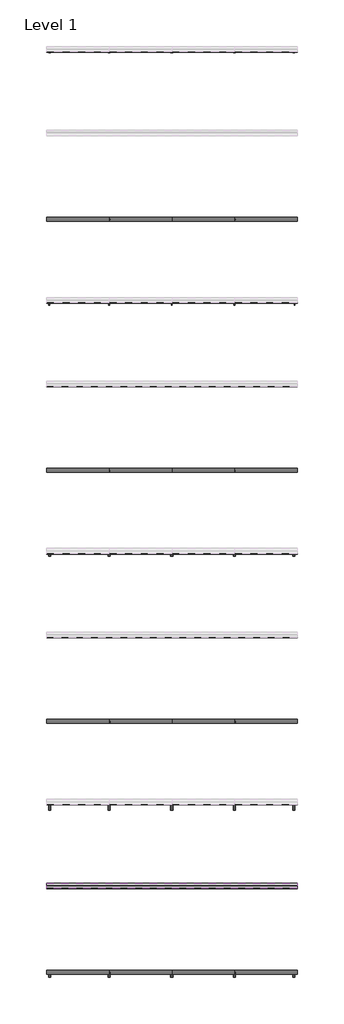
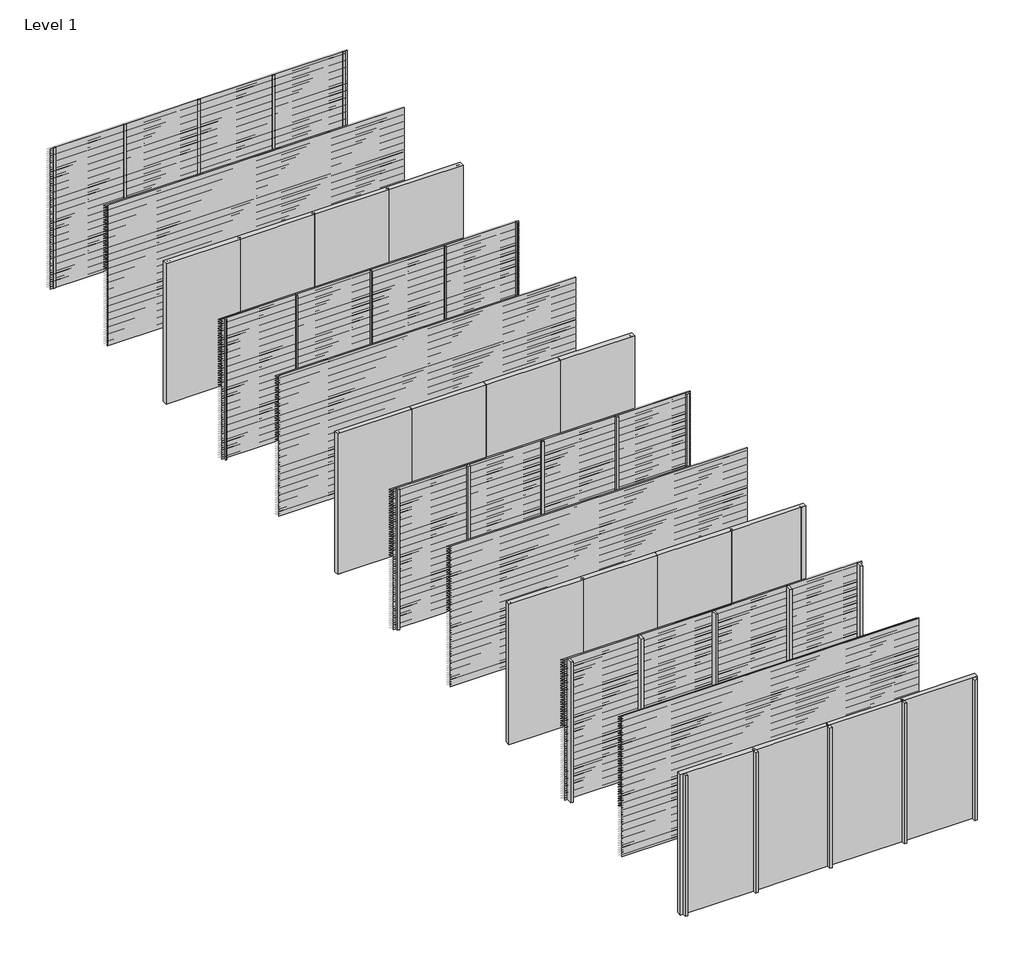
# One storey, part 1 of 13: 40 members, 39 proxies, 36 plates.
"""IFC4 building model written with IfcOpenShell, lengths in millimetres."""

from ifc_helpers import new_model, si_unit, frame, origin, origin_with_axes, place, context, project, spatial, polyline, outline, extrude, transform, mapped, element, save
from components import rectangular_mullion_bbbcbd30, rectangular_mullion_f8d4a220, rectangular_mullion_81aaf6fe, rectangular_mullion_6e08dc26, rectangular_mullion_75c52e10, rectangular_mullion_40295cf1, rectangular_mullion_7f158cb3, rectangular_mullion_66519e13, rectangular_mullion_5829b51c, rectangular_mullion_3b5b8a15, rectangular_mullion_81543344, rectangular_mullion_041a21c4, empty_system_panel_empty_ae16e1e1, empty_system_panel_empty_4cf993bc

model = new_model("IFC4")

# Units and contexts
model_context = context("Model", 3, world=origin())
ifc_project = project(units=[si_unit("LENGTHUNIT", "METRE", prefix="MILLI")], contexts=[model_context])

# Site, building, storey
site = spatial("IfcSite", under=ifc_project)
building = spatial("IfcBuilding", under=site)
storey = spatial("IfcBuildingStorey", under=building, Name="Level 1", Elevation=0.0)

# Proxies
placement = place(None, origin())
element("IfcBuildingElementProxy", 1, Name="Wall Sweeps", at=placement, inside=storey, context=model_context, shape_type="SweptSolid", body=[
    extrude(outline(polyline([(-19995.0, 3000.0), (-19995.0, 2998.0), (-19868.0, 2919.0), (-19868.0, 2913.0), (-19997.0, 2993.2440945), (-19997.0, 3000.0), (-19995.0, 3000.0)])), frame((0.0, 0.0, 0.0), z_axis=(1.0, 0.0, 0.0), x_axis=(0.0, 1.0, 0.0)), (0.0, 0.0, 1.0), 6000.0),
])
element("IfcBuildingElementProxy", 2, Name="Wall Sweeps", at=placement, inside=storey, context=model_context, shape_type="SweptSolid", body=[
    extrude(outline(polyline([(-19995.0, 2950.0), (-19995.0, 2948.0), (-19868.0, 2869.0), (-19868.0, 2863.0), (-19997.0, 2943.2440945), (-19997.0, 2950.0), (-19995.0, 2950.0)])), frame((0.0, 0.0, 0.0), z_axis=(1.0, 0.0, 0.0), x_axis=(0.0, 1.0, 0.0)), (0.0, 0.0, 1.0), 6000.0),
])
element("IfcBuildingElementProxy", 3, Name="Wall Sweeps", at=placement, inside=storey, context=model_context, shape_type="SweptSolid", body=[
    extrude(outline(polyline([(-19995.0, 2900.0), (-19995.0, 2898.0), (-19868.0, 2819.0), (-19868.0, 2813.0), (-19997.0, 2893.2440945), (-19997.0, 2900.0), (-19995.0, 2900.0)])), frame((0.0, 0.0, 0.0), z_axis=(1.0, 0.0, 0.0), x_axis=(0.0, 1.0, 0.0)), (0.0, 0.0, 1.0), 6000.0),
])
element("IfcBuildingElementProxy", 4, Name="Wall Sweeps", at=placement, inside=storey, context=model_context, shape_type="SweptSolid", body=[
    extrude(outline(polyline([(-19995.0, 2850.0), (-19995.0, 2848.0), (-19868.0, 2769.0), (-19868.0, 2763.0), (-19997.0, 2843.2440945), (-19997.0, 2850.0), (-19995.0, 2850.0)])), frame((0.0, 0.0, 0.0), z_axis=(1.0, 0.0, 0.0), x_axis=(0.0, 1.0, 0.0)), (0.0, 0.0, 1.0), 6000.0),
])
element("IfcBuildingElementProxy", 5, Name="Wall Sweeps", at=placement, inside=storey, context=model_context, shape_type="SweptSolid", body=[
    extrude(outline(polyline([(-19995.0, 2800.0), (-19995.0, 2798.0), (-19868.0, 2719.0), (-19868.0, 2713.0), (-19997.0, 2793.2440945), (-19997.0, 2800.0), (-19995.0, 2800.0)])), frame((0.0, 0.0, 0.0), z_axis=(1.0, 0.0, 0.0), x_axis=(0.0, 1.0, 0.0)), (0.0, 0.0, 1.0), 6000.0),
])
element("IfcBuildingElementProxy", 6, Name="Wall Sweeps", at=placement, inside=storey, context=model_context, shape_type="SweptSolid", body=[
    extrude(outline(polyline([(-19995.0, 2750.0), (-19995.0, 2748.0), (-19868.0, 2669.0), (-19868.0, 2663.0), (-19997.0, 2743.2440945), (-19997.0, 2750.0), (-19995.0, 2750.0)])), frame((0.0, 0.0, 0.0), z_axis=(1.0, 0.0, 0.0), x_axis=(0.0, 1.0, 0.0)), (0.0, 0.0, 1.0), 6000.0),
])
element("IfcBuildingElementProxy", 7, Name="Wall Sweeps", at=placement, inside=storey, context=model_context, shape_type="SweptSolid", body=[
    extrude(outline(polyline([(-19995.0, 2700.0), (-19995.0, 2698.0), (-19868.0, 2619.0), (-19868.0, 2613.0), (-19997.0, 2693.2440945), (-19997.0, 2700.0), (-19995.0, 2700.0)])), frame((0.0, 0.0, 0.0), z_axis=(1.0, 0.0, 0.0), x_axis=(0.0, 1.0, 0.0)), (0.0, 0.0, 1.0), 6000.0),
])
element("IfcBuildingElementProxy", 8, Name="Wall Sweeps", at=placement, inside=storey, context=model_context, shape_type="SweptSolid", body=[
    extrude(outline(polyline([(-19995.0, 2650.0), (-19995.0, 2648.0), (-19868.0, 2569.0), (-19868.0, 2563.0), (-19997.0, 2643.2440945), (-19997.0, 2650.0), (-19995.0, 2650.0)])), frame((0.0, 0.0, 0.0), z_axis=(1.0, 0.0, 0.0), x_axis=(0.0, 1.0, 0.0)), (0.0, 0.0, 1.0), 6000.0),
])
element("IfcBuildingElementProxy", 9, Name="Wall Sweeps", at=placement, inside=storey, context=model_context, shape_type="SweptSolid", body=[
    extrude(outline(polyline([(-19995.0, 2600.0), (-19995.0, 2598.0), (-19868.0, 2519.0), (-19868.0, 2513.0), (-19997.0, 2593.2440945), (-19997.0, 2600.0), (-19995.0, 2600.0)])), frame((0.0, 0.0, 0.0), z_axis=(1.0, 0.0, 0.0), x_axis=(0.0, 1.0, 0.0)), (0.0, 0.0, 1.0), 6000.0),
])
element("IfcBuildingElementProxy", 10, Name="Wall Sweeps", at=placement, inside=storey, context=model_context, shape_type="SweptSolid", body=[
    extrude(outline(polyline([(-19995.0, 2550.0), (-19995.0, 2548.0), (-19868.0, 2469.0), (-19868.0, 2463.0), (-19997.0, 2543.2440945), (-19997.0, 2550.0), (-19995.0, 2550.0)])), frame((0.0, 0.0, 0.0), z_axis=(1.0, 0.0, 0.0), x_axis=(0.0, 1.0, 0.0)), (0.0, 0.0, 1.0), 6000.0),
])
element("IfcBuildingElementProxy", 11, Name="Wall Sweeps", at=placement, inside=storey, context=model_context, shape_type="SweptSolid", body=[
    extrude(outline(polyline([(-19995.0, 2500.0), (-19995.0, 2498.0), (-19868.0, 2419.0), (-19868.0, 2413.0), (-19997.0, 2493.2440945), (-19997.0, 2500.0), (-19995.0, 2500.0)])), frame((0.0, 0.0, 0.0), z_axis=(1.0, 0.0, 0.0), x_axis=(0.0, 1.0, 0.0)), (0.0, 0.0, 1.0), 6000.0),
])
element("IfcBuildingElementProxy", 12, Name="Wall Sweeps", at=placement, inside=storey, context=model_context, shape_type="SweptSolid", body=[
    extrude(outline(polyline([(-19995.0, 2450.0), (-19995.0, 2448.0), (-19868.0, 2369.0), (-19868.0, 2363.0), (-19997.0, 2443.2440945), (-19997.0, 2450.0), (-19995.0, 2450.0)])), frame((0.0, 0.0, 0.0), z_axis=(1.0, 0.0, 0.0), x_axis=(0.0, 1.0, 0.0)), (0.0, 0.0, 1.0), 6000.0),
])
element("IfcBuildingElementProxy", 13, Name="Wall Sweeps", at=placement, inside=storey, context=model_context, shape_type="SweptSolid", body=[
    extrude(outline(polyline([(-19995.0, 2400.0), (-19995.0, 2398.0), (-19868.0, 2319.0), (-19868.0, 2313.0), (-19997.0, 2393.2440945), (-19997.0, 2400.0), (-19995.0, 2400.0)])), frame((0.0, 0.0, 0.0), z_axis=(1.0, 0.0, 0.0), x_axis=(0.0, 1.0, 0.0)), (0.0, 0.0, 1.0), 6000.0),
])
element("IfcBuildingElementProxy", 14, Name="Wall Sweeps", at=placement, inside=storey, context=model_context, shape_type="SweptSolid", body=[
    extrude(outline(polyline([(-19995.0, 2350.0), (-19995.0, 2348.0), (-19868.0, 2269.0), (-19868.0, 2263.0), (-19997.0, 2343.2440945), (-19997.0, 2350.0), (-19995.0, 2350.0)])), frame((0.0, 0.0, 0.0), z_axis=(1.0, 0.0, 0.0), x_axis=(0.0, 1.0, 0.0)), (0.0, 0.0, 1.0), 6000.0),
])
element("IfcBuildingElementProxy", 15, Name="Wall Sweeps", at=placement, inside=storey, context=model_context, shape_type="SweptSolid", body=[
    extrude(outline(polyline([(-19995.0, 2300.0), (-19995.0, 2298.0), (-19868.0, 2219.0), (-19868.0, 2213.0), (-19997.0, 2293.2440945), (-19997.0, 2300.0), (-19995.0, 2300.0)])), frame((0.0, 0.0, 0.0), z_axis=(1.0, 0.0, 0.0), x_axis=(0.0, 1.0, 0.0)), (0.0, 0.0, 1.0), 6000.0),
])
element("IfcBuildingElementProxy", 16, Name="Wall Sweeps", at=placement, inside=storey, context=model_context, shape_type="SweptSolid", body=[
    extrude(outline(polyline([(-19995.0, 2250.0), (-19995.0, 2248.0), (-19868.0, 2169.0), (-19868.0, 2163.0), (-19997.0, 2243.2440945), (-19997.0, 2250.0), (-19995.0, 2250.0)])), frame((0.0, 0.0, 0.0), z_axis=(1.0, 0.0, 0.0), x_axis=(0.0, 1.0, 0.0)), (0.0, 0.0, 1.0), 6000.0),
])
element("IfcBuildingElementProxy", 17, Name="Wall Sweeps", at=placement, inside=storey, context=model_context, shape_type="SweptSolid", body=[
    extrude(outline(polyline([(-19995.0, 2200.0), (-19995.0, 2198.0), (-19868.0, 2119.0), (-19868.0, 2113.0), (-19997.0, 2193.2440945), (-19997.0, 2200.0), (-19995.0, 2200.0)])), frame((0.0, 0.0, 0.0), z_axis=(1.0, 0.0, 0.0), x_axis=(0.0, 1.0, 0.0)), (0.0, 0.0, 1.0), 6000.0),
])
element("IfcBuildingElementProxy", 18, Name="Wall Sweeps", at=placement, inside=storey, context=model_context, shape_type="SweptSolid", body=[
    extrude(outline(polyline([(-19995.0, 2150.0), (-19995.0, 2148.0), (-19868.0, 2069.0), (-19868.0, 2063.0), (-19997.0, 2143.2440945), (-19997.0, 2150.0), (-19995.0, 2150.0)])), frame((0.0, 0.0, 0.0), z_axis=(1.0, 0.0, 0.0), x_axis=(0.0, 1.0, 0.0)), (0.0, 0.0, 1.0), 6000.0),
])
element("IfcBuildingElementProxy", 19, Name="Wall Sweeps", at=placement, inside=storey, context=model_context, shape_type="SweptSolid", body=[
    extrude(outline(polyline([(-19995.0, 2100.0), (-19995.0, 2098.0), (-19868.0, 2019.0), (-19868.0, 2013.0), (-19997.0, 2093.2440945), (-19997.0, 2100.0), (-19995.0, 2100.0)])), frame((0.0, 0.0, 0.0), z_axis=(1.0, 0.0, 0.0), x_axis=(0.0, 1.0, 0.0)), (0.0, 0.0, 1.0), 6000.0),
])
element("IfcBuildingElementProxy", 20, Name="Wall Sweeps", at=placement, inside=storey, context=model_context, shape_type="SweptSolid", body=[
    extrude(outline(polyline([(-19995.0, 2050.0), (-19995.0, 2048.0), (-19868.0, 1969.0), (-19868.0, 1963.0), (-19997.0, 2043.2440945), (-19997.0, 2050.0), (-19995.0, 2050.0)])), frame((0.0, 0.0, 0.0), z_axis=(1.0, 0.0, 0.0), x_axis=(0.0, 1.0, 0.0)), (0.0, 0.0, 1.0), 6000.0),
])
element("IfcBuildingElementProxy", 21, Name="Wall Sweeps", at=placement, inside=storey, context=model_context, shape_type="SweptSolid", body=[
    extrude(outline(polyline([(-19995.0, 2000.0), (-19995.0, 1998.0), (-19868.0, 1919.0), (-19868.0, 1913.0), (-19997.0, 1993.2440945), (-19997.0, 2000.0), (-19995.0, 2000.0)])), frame((0.0, 0.0, 0.0), z_axis=(1.0, 0.0, 0.0), x_axis=(0.0, 1.0, 0.0)), (0.0, 0.0, 1.0), 6000.0),
])
element("IfcBuildingElementProxy", 22, Name="Wall Sweeps", at=placement, inside=storey, context=model_context, shape_type="SweptSolid", body=[
    extrude(outline(polyline([(-19995.0, 1950.0), (-19995.0, 1948.0), (-19868.0, 1869.0), (-19868.0, 1863.0), (-19997.0, 1943.2440945), (-19997.0, 1950.0), (-19995.0, 1950.0)])), frame((0.0, 0.0, 0.0), z_axis=(1.0, 0.0, 0.0), x_axis=(0.0, 1.0, 0.0)), (0.0, 0.0, 1.0), 6000.0),
])
element("IfcBuildingElementProxy", 23, Name="Wall Sweeps", at=placement, inside=storey, context=model_context, shape_type="SweptSolid", body=[
    extrude(outline(polyline([(-19995.0, 1900.0), (-19995.0, 1898.0), (-19868.0, 1819.0), (-19868.0, 1813.0), (-19997.0, 1893.2440945), (-19997.0, 1900.0), (-19995.0, 1900.0)])), frame((0.0, 0.0, 0.0), z_axis=(1.0, 0.0, 0.0), x_axis=(0.0, 1.0, 0.0)), (0.0, 0.0, 1.0), 6000.0),
])
element("IfcBuildingElementProxy", 24, Name="Wall Sweeps", at=placement, inside=storey, context=model_context, shape_type="SweptSolid", body=[
    extrude(outline(polyline([(-19995.0, 1850.0), (-19995.0, 1848.0), (-19868.0, 1769.0), (-19868.0, 1763.0), (-19997.0, 1843.2440945), (-19997.0, 1850.0), (-19995.0, 1850.0)])), frame((0.0, 0.0, 0.0), z_axis=(1.0, 0.0, 0.0), x_axis=(0.0, 1.0, 0.0)), (0.0, 0.0, 1.0), 6000.0),
])
element("IfcBuildingElementProxy", 25, Name="Wall Sweeps", at=placement, inside=storey, context=model_context, shape_type="SweptSolid", body=[
    extrude(outline(polyline([(-19995.0, 1800.0), (-19995.0, 1798.0), (-19868.0, 1719.0), (-19868.0, 1713.0), (-19997.0, 1793.2440945), (-19997.0, 1800.0), (-19995.0, 1800.0)])), frame((0.0, 0.0, 0.0), z_axis=(1.0, 0.0, 0.0), x_axis=(0.0, 1.0, 0.0)), (0.0, 0.0, 1.0), 6000.0),
])
element("IfcBuildingElementProxy", 26, Name="Wall Sweeps", at=placement, inside=storey, context=model_context, shape_type="SweptSolid", body=[
    extrude(outline(polyline([(-19995.0, 1750.0), (-19995.0, 1748.0), (-19868.0, 1669.0), (-19868.0, 1663.0), (-19997.0, 1743.2440945), (-19997.0, 1750.0), (-19995.0, 1750.0)])), frame((0.0, 0.0, 0.0), z_axis=(1.0, 0.0, 0.0), x_axis=(0.0, 1.0, 0.0)), (0.0, 0.0, 1.0), 6000.0),
])
element("IfcBuildingElementProxy", 27, Name="Wall Sweeps", at=placement, inside=storey, context=model_context, shape_type="SweptSolid", body=[
    extrude(outline(polyline([(-19995.0, 1700.0), (-19995.0, 1698.0), (-19868.0, 1619.0), (-19868.0, 1613.0), (-19997.0, 1693.2440945), (-19997.0, 1700.0), (-19995.0, 1700.0)])), frame((0.0, 0.0, 0.0), z_axis=(1.0, 0.0, 0.0), x_axis=(0.0, 1.0, 0.0)), (0.0, 0.0, 1.0), 6000.0),
])
element("IfcBuildingElementProxy", 28, Name="Wall Sweeps", at=placement, inside=storey, context=model_context, shape_type="SweptSolid", body=[
    extrude(outline(polyline([(-19995.0, 1650.0), (-19995.0, 1648.0), (-19868.0, 1569.0), (-19868.0, 1563.0), (-19997.0, 1643.2440945), (-19997.0, 1650.0), (-19995.0, 1650.0)])), frame((0.0, 0.0, 0.0), z_axis=(1.0, 0.0, 0.0), x_axis=(0.0, 1.0, 0.0)), (0.0, 0.0, 1.0), 6000.0),
])
element("IfcBuildingElementProxy", 29, Name="Wall Sweeps", at=placement, inside=storey, context=model_context, shape_type="SweptSolid", body=[
    extrude(outline(polyline([(-19995.0, 1600.0), (-19995.0, 1598.0), (-19868.0, 1519.0), (-19868.0, 1513.0), (-19997.0, 1593.2440945), (-19997.0, 1600.0), (-19995.0, 1600.0)])), frame((0.0, 0.0, 0.0), z_axis=(1.0, 0.0, 0.0), x_axis=(0.0, 1.0, 0.0)), (0.0, 0.0, 1.0), 6000.0),
])
element("IfcBuildingElementProxy", 30, Name="Wall Sweeps", at=placement, inside=storey, context=model_context, shape_type="SweptSolid", body=[
    extrude(outline(polyline([(-19995.0, 1550.0), (-19995.0, 1548.0), (-19868.0, 1469.0), (-19868.0, 1463.0), (-19997.0, 1543.2440945), (-19997.0, 1550.0), (-19995.0, 1550.0)])), frame((0.0, 0.0, 0.0), z_axis=(1.0, 0.0, 0.0), x_axis=(0.0, 1.0, 0.0)), (0.0, 0.0, 1.0), 6000.0),
])
element("IfcBuildingElementProxy", 31, Name="Wall Sweeps", at=placement, inside=storey, context=model_context, shape_type="SweptSolid", body=[
    extrude(outline(polyline([(-19995.0, 1500.0), (-19995.0, 1498.0), (-19868.0, 1419.0), (-19868.0, 1413.0), (-19997.0, 1493.2440945), (-19997.0, 1500.0), (-19995.0, 1500.0)])), frame((0.0, 0.0, 0.0), z_axis=(1.0, 0.0, 0.0), x_axis=(0.0, 1.0, 0.0)), (0.0, 0.0, 1.0), 6000.0),
])
element("IfcBuildingElementProxy", 32, Name="Wall Sweeps", at=placement, inside=storey, context=model_context, shape_type="SweptSolid", body=[
    extrude(outline(polyline([(-19995.0, 1450.0), (-19995.0, 1448.0), (-19868.0, 1369.0), (-19868.0, 1363.0), (-19997.0, 1443.2440945), (-19997.0, 1450.0), (-19995.0, 1450.0)])), frame((0.0, 0.0, 0.0), z_axis=(1.0, 0.0, 0.0), x_axis=(0.0, 1.0, 0.0)), (0.0, 0.0, 1.0), 6000.0),
])
element("IfcBuildingElementProxy", 33, Name="Wall Sweeps", at=placement, inside=storey, context=model_context, shape_type="SweptSolid", body=[
    extrude(outline(polyline([(-19995.0, 1400.0), (-19995.0, 1398.0), (-19868.0, 1319.0), (-19868.0, 1313.0), (-19997.0, 1393.2440945), (-19997.0, 1400.0), (-19995.0, 1400.0)])), frame((0.0, 0.0, 0.0), z_axis=(1.0, 0.0, 0.0), x_axis=(0.0, 1.0, 0.0)), (0.0, 0.0, 1.0), 6000.0),
])
element("IfcBuildingElementProxy", 34, Name="Wall Sweeps", at=placement, inside=storey, context=model_context, shape_type="SweptSolid", body=[
    extrude(outline(polyline([(-19995.0, 1350.0), (-19995.0, 1348.0), (-19868.0, 1269.0), (-19868.0, 1263.0), (-19997.0, 1343.2440945), (-19997.0, 1350.0), (-19995.0, 1350.0)])), frame((0.0, 0.0, 0.0), z_axis=(1.0, 0.0, 0.0), x_axis=(0.0, 1.0, 0.0)), (0.0, 0.0, 1.0), 6000.0),
])
element("IfcBuildingElementProxy", 35, Name="Wall Sweeps", at=placement, inside=storey, context=model_context, shape_type="SweptSolid", body=[
    extrude(outline(polyline([(-19995.0, 1300.0), (-19995.0, 1298.0), (-19868.0, 1219.0), (-19868.0, 1213.0), (-19997.0, 1293.2440945), (-19997.0, 1300.0), (-19995.0, 1300.0)])), frame((0.0, 0.0, 0.0), z_axis=(1.0, 0.0, 0.0), x_axis=(0.0, 1.0, 0.0)), (0.0, 0.0, 1.0), 6000.0),
])
element("IfcBuildingElementProxy", 36, Name="Wall Sweeps", at=placement, inside=storey, context=model_context, shape_type="SweptSolid", body=[
    extrude(outline(polyline([(-19995.0, 1250.0), (-19995.0, 1248.0), (-19868.0, 1169.0), (-19868.0, 1163.0), (-19997.0, 1243.2440945), (-19997.0, 1250.0), (-19995.0, 1250.0)])), frame((0.0, 0.0, 0.0), z_axis=(1.0, 0.0, 0.0), x_axis=(0.0, 1.0, 0.0)), (0.0, 0.0, 1.0), 6000.0),
])
element("IfcBuildingElementProxy", 37, Name="Wall Sweeps", at=placement, inside=storey, context=model_context, shape_type="SweptSolid", body=[
    extrude(outline(polyline([(-19995.0, 1200.0), (-19995.0, 1198.0), (-19868.0, 1119.0), (-19868.0, 1113.0), (-19997.0, 1193.2440945), (-19997.0, 1200.0), (-19995.0, 1200.0)])), frame((0.0, 0.0, 0.0), z_axis=(1.0, 0.0, 0.0), x_axis=(0.0, 1.0, 0.0)), (0.0, 0.0, 1.0), 6000.0),
])
element("IfcBuildingElementProxy", 38, Name="Wall Sweeps", at=placement, inside=storey, context=model_context, shape_type="SweptSolid", body=[
    extrude(outline(polyline([(-19995.0, 1150.0), (-19995.0, 1148.0), (-19868.0, 1069.0), (-19868.0, 1063.0), (-19997.0, 1143.2440945), (-19997.0, 1150.0), (-19995.0, 1150.0)])), frame((0.0, 0.0, 0.0), z_axis=(1.0, 0.0, 0.0), x_axis=(0.0, 1.0, 0.0)), (0.0, 0.0, 1.0), 6000.0),
])
element("IfcBuildingElementProxy", 39, Name="Wall Sweeps", at=placement, inside=storey, context=model_context, shape_type="SweptSolid", body=[
    extrude(outline(polyline([(-19995.0, 1100.0), (-19995.0, 1098.0), (-19868.0, 1019.0), (-19868.0, 1013.0), (-19997.0, 1093.2440945), (-19997.0, 1100.0), (-19995.0, 1100.0)])), frame((0.0, 0.0, 0.0), z_axis=(1.0, 0.0, 0.0), x_axis=(0.0, 1.0, 0.0)), (0.0, 0.0, 1.0), 6000.0),
])

# Members
rectangular_mullion_shape = rectangular_mullion_bbbcbd30(model_context)
element("IfcMember", 40, ObjectType="Rectangular Mullion : RSen_21_CWM_support profile - 50x12 - left_gen_duco projects", at=placement, inside=storey, context=model_context, shape_type="MappedRepresentation", body=[
    mapped(rectangular_mullion_shape, transform((0.0, 0.0, 0.0), x_axis=(-1.0, 0.0, 0.0), y_axis=(0.0, 1.0, 0.0), z_axis=(0.0, 0.0, -1.0))),
])
element("IfcMember", 41, ObjectType="Rectangular Mullion : RSen_21_CWM_support profile - 50x12 - left_gen_duco projects", at=placement, inside=storey, context=model_context, shape_type="MappedRepresentation", body=[
    mapped(rectangular_mullion_shape, transform((0.0, -4000.0, 0.0), x_axis=(-1.0, 0.0, 0.0), y_axis=(0.0, 1.0, 0.0), z_axis=(0.0, 0.0, -1.0))),
])
rectangular_mullion_2_shape = rectangular_mullion_f8d4a220(model_context)
element("IfcMember", 42, ObjectType="Rectangular Mullion : RSen_21_CWM_support profile - 50x12 - right_gen_duco projects", at=placement, inside=storey, context=model_context, shape_type="MappedRepresentation", body=[
    mapped(rectangular_mullion_2_shape, transform((6000.0, 0.0, 3000.0), x_axis=(1.0, 0.0, 0.0), y_axis=(0.0, 1.0, 0.0), z_axis=(0.0, 0.0, 1.0))),
])
element("IfcMember", 43, ObjectType="Rectangular Mullion : RSen_21_CWM_support profile - 50x12 - right_gen_duco projects", at=placement, inside=storey, context=model_context, shape_type="MappedRepresentation", body=[
    mapped(rectangular_mullion_2_shape, transform((6000.0, -4000.0, 3000.0), x_axis=(1.0, 0.0, 0.0), y_axis=(0.0, 1.0, 0.0), z_axis=(0.0, 0.0, 1.0))),
])
rectangular_mullion_3_shape = rectangular_mullion_81aaf6fe(model_context)
element("IfcMember", 44, ObjectType="Rectangular Mullion : RSen_21_CWM_support profile - 21x50 Multi - left_gen_duco projects", at=placement, inside=storey, context=model_context, shape_type="MappedRepresentation", body=[
    mapped(rectangular_mullion_3_shape, transform((0.0, -6000.0, 0.0), x_axis=(-1.0, 0.0, 0.0), y_axis=(0.0, 1.0, 0.0), z_axis=(0.0, 0.0, -1.0))),
])
element("IfcMember", 45, ObjectType="Rectangular Mullion : RSen_21_CWM_support profile - 21x50 Multi - left_gen_duco projects", at=placement, inside=storey, context=model_context, shape_type="MappedRepresentation", body=[
    mapped(rectangular_mullion_3_shape, transform((0.0, -10000.0, 0.0), x_axis=(-1.0, 0.0, 0.0), y_axis=(0.0, 1.0, 0.0), z_axis=(0.0, 0.0, -1.0))),
])
rectangular_mullion_4_shape = rectangular_mullion_6e08dc26(model_context)
element("IfcMember", 46, ObjectType="Rectangular Mullion : RSen_21_CWM_support profile - 21x50 Multi - right_gen_duco projects", at=placement, inside=storey, context=model_context, shape_type="MappedRepresentation", body=[
    mapped(rectangular_mullion_4_shape, transform((6000.0, -6000.0, 3000.0), x_axis=(1.0, 0.0, 0.0), y_axis=(0.0, 1.0, 0.0), z_axis=(0.0, 0.0, 1.0))),
])
element("IfcMember", 47, ObjectType="Rectangular Mullion : RSen_21_CWM_support profile - 21x50 Multi - right_gen_duco projects", at=placement, inside=storey, context=model_context, shape_type="MappedRepresentation", body=[
    mapped(rectangular_mullion_4_shape, transform((6000.0, -10000.0, 3000.0), x_axis=(1.0, 0.0, 0.0), y_axis=(0.0, 1.0, 0.0), z_axis=(0.0, 0.0, 1.0))),
])
rectangular_mullion_5_shape = rectangular_mullion_75c52e10(model_context)
element("IfcMember", 48, ObjectType="Rectangular Mullion : RSen_21_CWM_support profile - 50x50 - left_gen_duco projects", at=placement, inside=storey, context=model_context, shape_type="MappedRepresentation", body=[
    mapped(rectangular_mullion_5_shape, transform((0.0, -12000.0, 0.0), x_axis=(-1.0, 0.0, 0.0), y_axis=(0.0, 1.0, 0.0), z_axis=(0.0, 0.0, -1.0))),
])
element("IfcMember", 49, ObjectType="Rectangular Mullion : RSen_21_CWM_support profile - 50x50 - left_gen_duco projects", at=placement, inside=storey, context=model_context, shape_type="MappedRepresentation", body=[
    mapped(rectangular_mullion_5_shape, transform((0.0, -16000.0, 0.0), x_axis=(-1.0, 0.0, 0.0), y_axis=(0.0, 1.0, 0.0), z_axis=(0.0, 0.0, -1.0))),
])
rectangular_mullion_6_shape = rectangular_mullion_40295cf1(model_context)
element("IfcMember", 50, ObjectType="Rectangular Mullion : RSen_21_CWM_support profile - 50x50 - right_gen_duco projects", at=placement, inside=storey, context=model_context, shape_type="MappedRepresentation", body=[
    mapped(rectangular_mullion_6_shape, transform((6000.0, -12000.0, 3000.0), x_axis=(1.0, 0.0, 0.0), y_axis=(0.0, 1.0, 0.0), z_axis=(0.0, 0.0, 1.0))),
])
element("IfcMember", 51, ObjectType="Rectangular Mullion : RSen_21_CWM_support profile - 50x50 - right_gen_duco projects", at=placement, inside=storey, context=model_context, shape_type="MappedRepresentation", body=[
    mapped(rectangular_mullion_6_shape, transform((6000.0, -16000.0, 3000.0), x_axis=(1.0, 0.0, 0.0), y_axis=(0.0, 1.0, 0.0), z_axis=(0.0, 0.0, 1.0))),
])
rectangular_mullion_7_shape = rectangular_mullion_7f158cb3(model_context)
element("IfcMember", 52, ObjectType="Rectangular Mullion : RSen_21_CWM_support profile - 50x12_gen_duco projects", at=placement, inside=storey, context=model_context, shape_type="MappedRepresentation", body=[
    mapped(rectangular_mullion_7_shape, transform((4500.0, 0.0, 0.0), x_axis=(-1.0, 0.0, 0.0), y_axis=(0.0, 1.0, 0.0), z_axis=(0.0, 0.0, -1.0))),
])
element("IfcMember", 53, ObjectType="Rectangular Mullion : RSen_21_CWM_support profile - 50x12_gen_duco projects", at=placement, inside=storey, context=model_context, shape_type="MappedRepresentation", body=[
    mapped(rectangular_mullion_7_shape, transform((3000.0, 0.0, 0.0), x_axis=(-1.0, 0.0, 0.0), y_axis=(0.0, 1.0, 0.0), z_axis=(0.0, 0.0, -1.0))),
])
element("IfcMember", 54, ObjectType="Rectangular Mullion : RSen_21_CWM_support profile - 50x12_gen_duco projects", at=placement, inside=storey, context=model_context, shape_type="MappedRepresentation", body=[
    mapped(rectangular_mullion_7_shape, transform((1500.0, 0.0, 0.0), x_axis=(-1.0, 0.0, 0.0), y_axis=(0.0, 1.0, 0.0), z_axis=(0.0, 0.0, -1.0))),
])
element("IfcMember", 55, ObjectType="Rectangular Mullion : RSen_21_CWM_support profile - 50x12_gen_duco projects", at=placement, inside=storey, context=model_context, shape_type="MappedRepresentation", body=[
    mapped(rectangular_mullion_7_shape, transform((4500.0, -4000.0, 0.0), x_axis=(-1.0, 0.0, 0.0), y_axis=(0.0, 1.0, 0.0), z_axis=(0.0, 0.0, -1.0))),
])
element("IfcMember", 56, ObjectType="Rectangular Mullion : RSen_21_CWM_support profile - 50x12_gen_duco projects", at=placement, inside=storey, context=model_context, shape_type="MappedRepresentation", body=[
    mapped(rectangular_mullion_7_shape, transform((3000.0, -4000.0, 0.0), x_axis=(-1.0, 0.0, 0.0), y_axis=(0.0, 1.0, 0.0), z_axis=(0.0, 0.0, -1.0))),
])
element("IfcMember", 57, ObjectType="Rectangular Mullion : RSen_21_CWM_support profile - 50x12_gen_duco projects", at=placement, inside=storey, context=model_context, shape_type="MappedRepresentation", body=[
    mapped(rectangular_mullion_7_shape, transform((1500.0, -4000.0, 0.0), x_axis=(-1.0, 0.0, 0.0), y_axis=(0.0, 1.0, 0.0), z_axis=(0.0, 0.0, -1.0))),
])
rectangular_mullion_8_shape = rectangular_mullion_66519e13(model_context)
element("IfcMember", 58, ObjectType="Rectangular Mullion : RSen_21_CWM_support profile - 21x50 Multi_gen_duco projects", at=placement, inside=storey, context=model_context, shape_type="MappedRepresentation", body=[
    mapped(rectangular_mullion_8_shape, transform((4500.0, -6000.0, 0.0), x_axis=(-1.0, 0.0, 0.0), y_axis=(0.0, 1.0, 0.0), z_axis=(0.0, 0.0, -1.0))),
])
element("IfcMember", 59, ObjectType="Rectangular Mullion : RSen_21_CWM_support profile - 21x50 Multi_gen_duco projects", at=placement, inside=storey, context=model_context, shape_type="MappedRepresentation", body=[
    mapped(rectangular_mullion_8_shape, transform((3000.0, -6000.0, 0.0), x_axis=(-1.0, 0.0, 0.0), y_axis=(0.0, 1.0, 0.0), z_axis=(0.0, 0.0, -1.0))),
])
element("IfcMember", 60, ObjectType="Rectangular Mullion : RSen_21_CWM_support profile - 21x50 Multi_gen_duco projects", at=placement, inside=storey, context=model_context, shape_type="MappedRepresentation", body=[
    mapped(rectangular_mullion_8_shape, transform((1500.0, -6000.0, 0.0), x_axis=(-1.0, 0.0, 0.0), y_axis=(0.0, 1.0, 0.0), z_axis=(0.0, 0.0, -1.0))),
])
element("IfcMember", 61, ObjectType="Rectangular Mullion : RSen_21_CWM_support profile - 21x50 Multi_gen_duco projects", at=placement, inside=storey, context=model_context, shape_type="MappedRepresentation", body=[
    mapped(rectangular_mullion_8_shape, transform((4500.0, -10000.0, 0.0), x_axis=(-1.0, 0.0, 0.0), y_axis=(0.0, 1.0, 0.0), z_axis=(0.0, 0.0, -1.0))),
])
element("IfcMember", 62, ObjectType="Rectangular Mullion : RSen_21_CWM_support profile - 21x50 Multi_gen_duco projects", at=placement, inside=storey, context=model_context, shape_type="MappedRepresentation", body=[
    mapped(rectangular_mullion_8_shape, transform((3000.0, -10000.0, 0.0), x_axis=(-1.0, 0.0, 0.0), y_axis=(0.0, 1.0, 0.0), z_axis=(0.0, 0.0, -1.0))),
])
element("IfcMember", 63, ObjectType="Rectangular Mullion : RSen_21_CWM_support profile - 21x50 Multi_gen_duco projects", at=placement, inside=storey, context=model_context, shape_type="MappedRepresentation", body=[
    mapped(rectangular_mullion_8_shape, transform((1500.0, -10000.0, 0.0), x_axis=(-1.0, 0.0, 0.0), y_axis=(0.0, 1.0, 0.0), z_axis=(0.0, 0.0, -1.0))),
])
rectangular_mullion_9_shape = rectangular_mullion_5829b51c(model_context)
element("IfcMember", 64, ObjectType="Rectangular Mullion : RSen_21_CWM_support profile - 50x50_gen_duco projects", at=placement, inside=storey, context=model_context, shape_type="MappedRepresentation", body=[
    mapped(rectangular_mullion_9_shape, transform((4500.0, -12000.0, 0.0), x_axis=(-1.0, 0.0, 0.0), y_axis=(0.0, 1.0, 0.0), z_axis=(0.0, 0.0, -1.0))),
])
element("IfcMember", 65, ObjectType="Rectangular Mullion : RSen_21_CWM_support profile - 50x50_gen_duco projects", at=placement, inside=storey, context=model_context, shape_type="MappedRepresentation", body=[
    mapped(rectangular_mullion_9_shape, transform((3000.0, -12000.0, 0.0), x_axis=(-1.0, 0.0, 0.0), y_axis=(0.0, 1.0, 0.0), z_axis=(0.0, 0.0, -1.0))),
])
element("IfcMember", 66, ObjectType="Rectangular Mullion : RSen_21_CWM_support profile - 50x50_gen_duco projects", at=placement, inside=storey, context=model_context, shape_type="MappedRepresentation", body=[
    mapped(rectangular_mullion_9_shape, transform((1500.0, -12000.0, 0.0), x_axis=(-1.0, 0.0, 0.0), y_axis=(0.0, 1.0, 0.0), z_axis=(0.0, 0.0, -1.0))),
])
element("IfcMember", 67, ObjectType="Rectangular Mullion : RSen_21_CWM_support profile - 50x50_gen_duco projects", at=placement, inside=storey, context=model_context, shape_type="MappedRepresentation", body=[
    mapped(rectangular_mullion_9_shape, transform((4500.0, -16000.0, 0.0), x_axis=(-1.0, 0.0, 0.0), y_axis=(0.0, 1.0, 0.0), z_axis=(0.0, 0.0, -1.0))),
])
element("IfcMember", 68, ObjectType="Rectangular Mullion : RSen_21_CWM_support profile - 50x50_gen_duco projects", at=placement, inside=storey, context=model_context, shape_type="MappedRepresentation", body=[
    mapped(rectangular_mullion_9_shape, transform((3000.0, -16000.0, 0.0), x_axis=(-1.0, 0.0, 0.0), y_axis=(0.0, 1.0, 0.0), z_axis=(0.0, 0.0, -1.0))),
])
element("IfcMember", 69, ObjectType="Rectangular Mullion : RSen_21_CWM_support profile - 50x50_gen_duco projects", at=placement, inside=storey, context=model_context, shape_type="MappedRepresentation", body=[
    mapped(rectangular_mullion_9_shape, transform((1500.0, -16000.0, 0.0), x_axis=(-1.0, 0.0, 0.0), y_axis=(0.0, 1.0, 0.0), z_axis=(0.0, 0.0, -1.0))),
])
rectangular_mullion_10_shape = rectangular_mullion_3b5b8a15(model_context)
element("IfcMember", 70, ObjectType="Rectangular Mullion : RSen_21_CWM_support profile - 50x125_gen_duco projects", at=placement, inside=storey, context=model_context, shape_type="MappedRepresentation", body=[
    mapped(rectangular_mullion_10_shape, transform((1500.0000002, -18000.0, 0.0), x_axis=(1.0, 0.0, 0.0), y_axis=(0.0, -1.0, 0.0), z_axis=(0.0, 0.0, -1.0))),
])
element("IfcMember", 71, ObjectType="Rectangular Mullion : RSen_21_CWM_support profile - 50x125_gen_duco projects", at=placement, inside=storey, context=model_context, shape_type="MappedRepresentation", body=[
    mapped(rectangular_mullion_10_shape, transform((3000.0, -18000.0, 0.0), x_axis=(1.0, 0.0, 0.0), y_axis=(0.0, -1.0, 0.0), z_axis=(0.0, 0.0, -1.0))),
])
element("IfcMember", 72, ObjectType="Rectangular Mullion : RSen_21_CWM_support profile - 50x125_gen_duco projects", at=placement, inside=storey, context=model_context, shape_type="MappedRepresentation", body=[
    mapped(rectangular_mullion_10_shape, transform((4499.9999998, -18000.0, 0.0), x_axis=(1.0, 0.0, 0.0), y_axis=(0.0, -1.0, 0.0), z_axis=(0.0, 0.0, -1.0))),
])
element("IfcMember", 73, ObjectType="Rectangular Mullion : RSen_21_CWM_support profile - 50x125_gen_duco projects", at=placement, inside=storey, context=model_context, shape_type="MappedRepresentation", body=[
    mapped(rectangular_mullion_10_shape, transform((1500.0000002, -22000.0, 0.0), x_axis=(1.0, 0.0, 0.0), y_axis=(0.0, -1.0, 0.0), z_axis=(0.0, 0.0, -1.0))),
])
element("IfcMember", 74, ObjectType="Rectangular Mullion : RSen_21_CWM_support profile - 50x125_gen_duco projects", at=placement, inside=storey, context=model_context, shape_type="MappedRepresentation", body=[
    mapped(rectangular_mullion_10_shape, transform((3000.0, -22000.0, 0.0), x_axis=(1.0, 0.0, 0.0), y_axis=(0.0, -1.0, 0.0), z_axis=(0.0, 0.0, -1.0))),
])
element("IfcMember", 75, ObjectType="Rectangular Mullion : RSen_21_CWM_support profile - 50x125_gen_duco projects", at=placement, inside=storey, context=model_context, shape_type="MappedRepresentation", body=[
    mapped(rectangular_mullion_10_shape, transform((4499.9999998, -22000.0, 0.0), x_axis=(1.0, 0.0, 0.0), y_axis=(0.0, -1.0, 0.0), z_axis=(0.0, 0.0, -1.0))),
])
rectangular_mullion_11_shape = rectangular_mullion_81543344(model_context)
element("IfcMember", 76, ObjectType="Rectangular Mullion : RSen_21_CWM_support profile - 50x125 - left_gen_duco projects", at=placement, inside=storey, context=model_context, shape_type="MappedRepresentation", body=[
    mapped(rectangular_mullion_11_shape, transform((6000.0, -18000.0, 0.0), x_axis=(1.0, 0.0, 0.0), y_axis=(0.0, -1.0, 0.0), z_axis=(0.0, 0.0, -1.0))),
])
element("IfcMember", 77, ObjectType="Rectangular Mullion : RSen_21_CWM_support profile - 50x125 - left_gen_duco projects", at=placement, inside=storey, context=model_context, shape_type="MappedRepresentation", body=[
    mapped(rectangular_mullion_11_shape, transform((6000.0, -22000.0, 0.0), x_axis=(1.0, 0.0, 0.0), y_axis=(0.0, -1.0, 0.0), z_axis=(0.0, 0.0, -1.0))),
])
rectangular_mullion_12_shape = rectangular_mullion_041a21c4(model_context)
element("IfcMember", 78, ObjectType="Rectangular Mullion : RSen_21_CWM_support profile - 50x125 - right_gen_duco projects", at=placement, inside=storey, context=model_context, shape_type="MappedRepresentation", body=[
    mapped(rectangular_mullion_12_shape, transform((0.0, -18000.0, 3000.0), x_axis=(-1.0, 0.0, 0.0), y_axis=(0.0, -1.0, 0.0), z_axis=(0.0, 0.0, 1.0))),
])
element("IfcMember", 79, ObjectType="Rectangular Mullion : RSen_21_CWM_support profile - 50x125 - right_gen_duco projects", at=placement, inside=storey, context=model_context, shape_type="MappedRepresentation", body=[
    mapped(rectangular_mullion_12_shape, transform((0.0, -22000.0, 3000.0), x_axis=(-1.0, 0.0, 0.0), y_axis=(0.0, -1.0, 0.0), z_axis=(0.0, 0.0, 1.0))),
])

# Plates
element("IfcPlate", 80, ObjectType="RSen_21_WA_louvre blade classic W 130HP_gen_duco projects", at=placement, inside=storey, context=model_context, shape_type="SweptSolid", body=[
    extrude(outline(polyline([(0.0, 1.0), (1500.0, 1.0), (1500.0, -1.0), (0.0, -1.0), (0.0, 1.0)])), origin_with_axes(), (0.0, 0.0, 1.0), 3000.0),
])
element("IfcPlate", 81, ObjectType="RSen_21_WA_louvre blade classic W 130HP_gen_duco projects", at=placement, inside=storey, context=model_context, shape_type="SweptSolid", body=[
    extrude(outline(polyline([(1500.0, 1.0), (3000.0, 1.0), (3000.0, -1.0), (1500.0, -1.0), (1500.0, 1.0)])), origin_with_axes(), (0.0, 0.0, 1.0), 3000.0),
])
element("IfcPlate", 82, ObjectType="RSen_21_WA_louvre blade classic W 130HP_gen_duco projects", at=placement, inside=storey, context=model_context, shape_type="SweptSolid", body=[
    extrude(outline(polyline([(3000.0, 1.0), (4500.0, 1.0), (4500.0, -1.0), (3000.0, -1.0), (3000.0, 1.0)])), origin_with_axes(), (0.0, 0.0, 1.0), 3000.0),
])
element("IfcPlate", 83, ObjectType="RSen_21_WA_louvre blade classic W 130HP_gen_duco projects", at=placement, inside=storey, context=model_context, shape_type="SweptSolid", body=[
    extrude(outline(polyline([(4500.0, 1.0), (6000.0, 1.0), (6000.0, -1.0), (4500.0, -1.0), (4500.0, 1.0)])), origin_with_axes(), (0.0, 0.0, 1.0), 3000.0),
])
element("IfcPlate", 84, ObjectType="RSen_21_WA_louvre blade classic W 130HP_gen_duco projects", at=placement, inside=storey, context=model_context, shape_type="SweptSolid", body=[
    extrude(outline(polyline([(0.0, -1999.0), (6000.0, -1999.0), (6000.0, -2001.0), (0.0, -2001.0), (0.0, -1999.0)])), origin_with_axes(), (0.0, 0.0, 1.0), 3000.0),
])
element("IfcPlate", 85, ObjectType="RSen_21_WA_louvre blade classic W 130HP_gen_duco projects", at=placement, inside=storey, context=model_context, shape_type="SweptSolid", body=[
    extrude(outline(polyline([(0.0, -5999.0), (1500.0, -5999.0), (1500.0, -6001.0), (0.0, -6001.0), (0.0, -5999.0)])), origin_with_axes(), (0.0, 0.0, 1.0), 3000.0),
])
element("IfcPlate", 86, ObjectType="RSen_21_WA_louvre blade classic W 130HP_gen_duco projects", at=placement, inside=storey, context=model_context, shape_type="SweptSolid", body=[
    extrude(outline(polyline([(1500.0, -5999.0), (3000.0, -5999.0), (3000.0, -6001.0), (1500.0, -6001.0), (1500.0, -5999.0)])), origin_with_axes(), (0.0, 0.0, 1.0), 3000.0),
])
element("IfcPlate", 87, ObjectType="RSen_21_WA_louvre blade classic W 130HP_gen_duco projects", at=placement, inside=storey, context=model_context, shape_type="SweptSolid", body=[
    extrude(outline(polyline([(3000.0, -5999.0), (4500.0, -5999.0), (4500.0, -6001.0), (3000.0, -6001.0), (3000.0, -5999.0)])), origin_with_axes(), (0.0, 0.0, 1.0), 3000.0),
])
element("IfcPlate", 88, ObjectType="RSen_21_WA_louvre blade classic W 130HP_gen_duco projects", at=placement, inside=storey, context=model_context, shape_type="SweptSolid", body=[
    extrude(outline(polyline([(4500.0, -5999.0), (6000.0, -5999.0), (6000.0, -6001.0), (4500.0, -6001.0), (4500.0, -5999.0)])), origin_with_axes(), (0.0, 0.0, 1.0), 3000.0),
])
element("IfcPlate", 89, ObjectType="RSen_21_WA_louvre blade classic W 130HP_gen_duco projects", at=placement, inside=storey, context=model_context, shape_type="SweptSolid", body=[
    extrude(outline(polyline([(0.0, -7999.0), (6000.0, -7999.0), (6000.0, -8001.0), (0.0, -8001.0), (0.0, -7999.0)])), origin_with_axes(), (0.0, 0.0, 1.0), 3000.0),
])
element("IfcPlate", 90, ObjectType="RSen_21_WA_louvre blade classic W 130HP_gen_duco projects", at=placement, inside=storey, context=model_context, shape_type="SweptSolid", body=[
    extrude(outline(polyline([(0.0, -11999.0), (1500.0, -11999.0), (1500.0, -12001.0), (0.0, -12001.0), (0.0, -11999.0)])), origin_with_axes(), (0.0, 0.0, 1.0), 3000.0),
])
element("IfcPlate", 91, ObjectType="RSen_21_WA_louvre blade classic W 130HP_gen_duco projects", at=placement, inside=storey, context=model_context, shape_type="SweptSolid", body=[
    extrude(outline(polyline([(1500.0, -11999.0), (3000.0, -11999.0), (3000.0, -12001.0), (1500.0, -12001.0), (1500.0, -11999.0)])), origin_with_axes(), (0.0, 0.0, 1.0), 3000.0),
])
element("IfcPlate", 92, ObjectType="RSen_21_WA_louvre blade classic W 130HP_gen_duco projects", at=placement, inside=storey, context=model_context, shape_type="SweptSolid", body=[
    extrude(outline(polyline([(3000.0, -11999.0), (4500.0, -11999.0), (4500.0, -12001.0), (3000.0, -12001.0), (3000.0, -11999.0)])), origin_with_axes(), (0.0, 0.0, 1.0), 3000.0),
])
element("IfcPlate", 93, ObjectType="RSen_21_WA_louvre blade classic W 130HP_gen_duco projects", at=placement, inside=storey, context=model_context, shape_type="SweptSolid", body=[
    extrude(outline(polyline([(4500.0, -11999.0), (6000.0, -11999.0), (6000.0, -12001.0), (4500.0, -12001.0), (4500.0, -11999.0)])), origin_with_axes(), (0.0, 0.0, 1.0), 3000.0),
])
element("IfcPlate", 94, ObjectType="RSen_21_WA_louvre blade classic W 130HP_gen_duco projects", at=placement, inside=storey, context=model_context, shape_type="SweptSolid", body=[
    extrude(outline(polyline([(0.0, -13999.0), (6000.0, -13999.0), (6000.0, -14001.0), (0.0, -14001.0), (0.0, -13999.0)])), origin_with_axes(), (0.0, 0.0, 1.0), 3000.0),
])
element("IfcPlate", 95, ObjectType="RSen_21_WA_louvre blade classic W 130HP_gen_duco projects", at=placement, inside=storey, context=model_context, shape_type="SweptSolid", body=[
    extrude(outline(polyline([(6000.0, -18001.0), (4499.9999998, -18001.0), (4499.9999998, -17999.0), (6000.0, -17999.0), (6000.0, -18001.0)])), origin_with_axes(), (0.0, 0.0, 1.0), 3000.0),
])
element("IfcPlate", 96, ObjectType="RSen_21_WA_louvre blade classic W 130HP_gen_duco projects", at=placement, inside=storey, context=model_context, shape_type="SweptSolid", body=[
    extrude(outline(polyline([(4499.9999998, -18001.0), (3000.0, -18001.0), (3000.0, -17999.0), (4499.9999998, -17999.0), (4499.9999998, -18001.0)])), origin_with_axes(), (0.0, 0.0, 1.0), 3000.0),
])
element("IfcPlate", 97, ObjectType="RSen_21_WA_louvre blade classic W 130HP_gen_duco projects", at=placement, inside=storey, context=model_context, shape_type="SweptSolid", body=[
    extrude(outline(polyline([(3000.0, -18001.0), (1500.0000002, -18001.0), (1500.0000002, -17999.0), (3000.0, -17999.0), (3000.0, -18001.0)])), origin_with_axes(), (0.0, 0.0, 1.0), 3000.0),
])
element("IfcPlate", 98, ObjectType="RSen_21_WA_louvre blade classic W 130HP_gen_duco projects", at=placement, inside=storey, context=model_context, shape_type="SweptSolid", body=[
    extrude(outline(polyline([(1500.0000002, -18001.0), (0.0, -18001.0), (0.0, -17999.0), (1500.0000002, -17999.0), (1500.0000002, -18001.0)])), origin_with_axes(), (0.0, 0.0, 1.0), 3000.0),
])
element("IfcPlate", 99, ObjectType="RSen_21_WA_louvre blade classic W 130HP_gen_duco projects", at=placement, inside=storey, context=model_context, shape_type="SweptSolid", body=[
    extrude(outline(polyline([(6000.0, -20001.0), (0.0, -20001.0), (0.0, -19999.0), (6000.0, -19999.0), (6000.0, -20001.0)])), origin_with_axes(), (0.0, 0.0, 1.0), 3000.0),
])
empty_system_panel_empty_shape = empty_system_panel_empty_ae16e1e1(model_context)
element("IfcPlate", 100, ObjectType="Empty System Panel : Empty", at=placement, inside=storey, context=model_context, shape_type="MappedRepresentation", body=[
    mapped(empty_system_panel_empty_shape, transform((5250.0, -4000.0, 0.0), x_axis=(-1.0, 0.0, 0.0), y_axis=(0.0, -1.0, 0.0), z_axis=(0.0, 0.0, 1.0))),
])
element("IfcPlate", 101, ObjectType="Empty System Panel : Empty", at=placement, inside=storey, context=model_context, shape_type="MappedRepresentation", body=[
    mapped(empty_system_panel_empty_shape, transform((5250.0, -10000.0, 0.0), x_axis=(-1.0, 0.0, 0.0), y_axis=(0.0, -1.0, 0.0), z_axis=(0.0, 0.0, 1.0))),
])
element("IfcPlate", 102, ObjectType="Empty System Panel : Empty", at=placement, inside=storey, context=model_context, shape_type="MappedRepresentation", body=[
    mapped(empty_system_panel_empty_shape, transform((5250.0, -16000.0, 0.0), x_axis=(-1.0, 0.0, 0.0), y_axis=(0.0, -1.0, 0.0), z_axis=(0.0, 0.0, 1.0))),
])
element("IfcPlate", 103, ObjectType="Empty System Panel : Empty", at=placement, inside=storey, context=model_context, shape_type="MappedRepresentation", body=[
    mapped(empty_system_panel_empty_shape, transform((3750.0, -4000.0, 0.0), x_axis=(-1.0, 0.0, 0.0), y_axis=(0.0, -1.0, 0.0), z_axis=(0.0, 0.0, 1.0))),
])
element("IfcPlate", 104, ObjectType="Empty System Panel : Empty", at=placement, inside=storey, context=model_context, shape_type="MappedRepresentation", body=[
    mapped(empty_system_panel_empty_shape, transform((2250.0, -4000.0, 0.0), x_axis=(-1.0, 0.0, 0.0), y_axis=(0.0, -1.0, 0.0), z_axis=(0.0, 0.0, 1.0))),
])
element("IfcPlate", 105, ObjectType="Empty System Panel : Empty", at=placement, inside=storey, context=model_context, shape_type="MappedRepresentation", body=[
    mapped(empty_system_panel_empty_shape, transform((750.0, -4000.0, 0.0), x_axis=(-1.0, 0.0, 0.0), y_axis=(0.0, -1.0, 0.0), z_axis=(0.0, 0.0, 1.0))),
])
element("IfcPlate", 106, ObjectType="Empty System Panel : Empty", at=placement, inside=storey, context=model_context, shape_type="MappedRepresentation", body=[
    mapped(empty_system_panel_empty_shape, transform((3750.0, -10000.0, 0.0), x_axis=(-1.0, 0.0, 0.0), y_axis=(0.0, -1.0, 0.0), z_axis=(0.0, 0.0, 1.0))),
])
element("IfcPlate", 107, ObjectType="Empty System Panel : Empty", at=placement, inside=storey, context=model_context, shape_type="MappedRepresentation", body=[
    mapped(empty_system_panel_empty_shape, transform((2250.0, -10000.0, 0.0), x_axis=(-1.0, 0.0, 0.0), y_axis=(0.0, -1.0, 0.0), z_axis=(0.0, 0.0, 1.0))),
])
element("IfcPlate", 108, ObjectType="Empty System Panel : Empty", at=placement, inside=storey, context=model_context, shape_type="MappedRepresentation", body=[
    mapped(empty_system_panel_empty_shape, transform((750.0, -10000.0, 0.0), x_axis=(-1.0, 0.0, 0.0), y_axis=(0.0, -1.0, 0.0), z_axis=(0.0, 0.0, 1.0))),
])
element("IfcPlate", 109, ObjectType="Empty System Panel : Empty", at=placement, inside=storey, context=model_context, shape_type="MappedRepresentation", body=[
    mapped(empty_system_panel_empty_shape, transform((3750.0, -16000.0, 0.0), x_axis=(-1.0, 0.0, 0.0), y_axis=(0.0, -1.0, 0.0), z_axis=(0.0, 0.0, 1.0))),
])
element("IfcPlate", 110, ObjectType="Empty System Panel : Empty", at=placement, inside=storey, context=model_context, shape_type="MappedRepresentation", body=[
    mapped(empty_system_panel_empty_shape, transform((2250.0, -16000.0, 0.0), x_axis=(-1.0, 0.0, 0.0), y_axis=(0.0, -1.0, 0.0), z_axis=(0.0, 0.0, 1.0))),
])
element("IfcPlate", 111, ObjectType="Empty System Panel : Empty", at=placement, inside=storey, context=model_context, shape_type="MappedRepresentation", body=[
    mapped(empty_system_panel_empty_shape, transform((750.0, -16000.0, 0.0), x_axis=(-1.0, 0.0, 0.0), y_axis=(0.0, -1.0, 0.0), z_axis=(0.0, 0.0, 1.0))),
])
empty_system_panel_empty_2_shape = empty_system_panel_empty_4cf993bc(model_context)
element("IfcPlate", 112, ObjectType="Empty System Panel : Empty", at=placement, inside=storey, context=model_context, shape_type="MappedRepresentation", body=[
    mapped(empty_system_panel_empty_2_shape, transform((750.0000001, -22000.0, 0.0), x_axis=(1.0, 0.0, 0.0), y_axis=(0.0, 1.0, 0.0), z_axis=(0.0, 0.0, 1.0))),
])
element("IfcPlate", 113, ObjectType="Empty System Panel : Empty", at=placement, inside=storey, context=model_context, shape_type="MappedRepresentation", body=[
    mapped(empty_system_panel_empty_2_shape, transform((2250.0000001, -22000.0, 0.0), x_axis=(1.0, 0.0, 0.0), y_axis=(0.0, 1.0, 0.0), z_axis=(0.0, 0.0, 1.0))),
])
element("IfcPlate", 114, ObjectType="Empty System Panel : Empty", at=placement, inside=storey, context=model_context, shape_type="MappedRepresentation", body=[
    mapped(empty_system_panel_empty_2_shape, transform((3749.9999999, -22000.0, 0.0), x_axis=(1.0, 0.0, 0.0), y_axis=(0.0, 1.0, 0.0), z_axis=(0.0, 0.0, 1.0))),
])
element("IfcPlate", 115, ObjectType="Empty System Panel : Empty", at=placement, inside=storey, context=model_context, shape_type="MappedRepresentation", body=[
    mapped(empty_system_panel_empty_2_shape, transform((5249.9999999, -22000.0, 0.0), x_axis=(1.0, 0.0, 0.0), y_axis=(0.0, 1.0, 0.0), z_axis=(0.0, 0.0, 1.0))),
])

save(model, "model.ifc")
